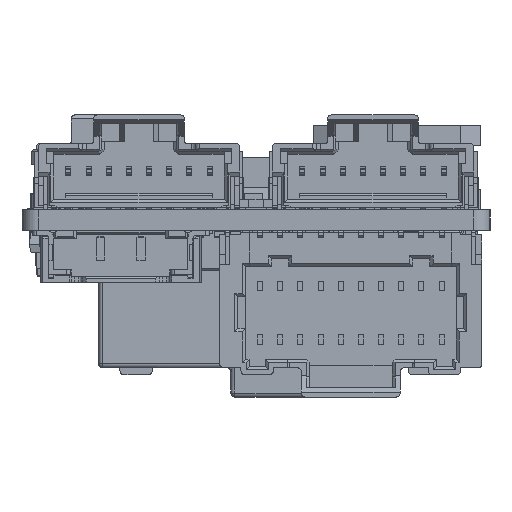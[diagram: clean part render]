
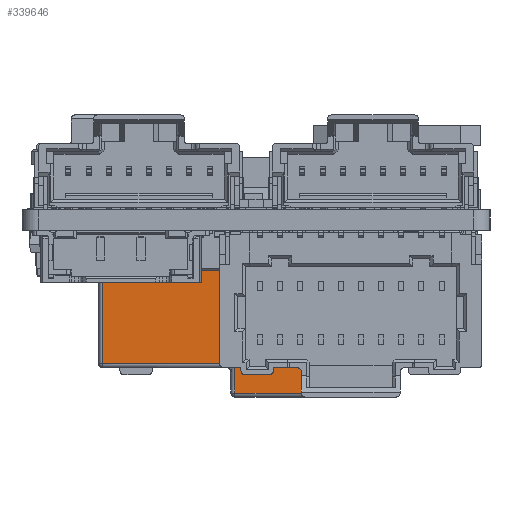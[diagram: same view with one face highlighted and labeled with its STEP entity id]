
A CAD part, left-side view. The second image highlights one B-rep face of the part: STEP entity #339646.
In plain terms, the highlighted planar face has unit normal (-1, 0, 0).
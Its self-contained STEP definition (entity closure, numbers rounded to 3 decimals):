
#339530 = VERTEX_POINT('',#339531);
#339531 = CARTESIAN_POINT('',(34.35,1.05,
    -7.635));
#339627 = VERTEX_POINT('',#339628);
#339628 = CARTESIAN_POINT('',(34.35,1.05,
    -9.085));
#339635 = EDGE_CURVE('',#339627,#339530,#339636,.T.);
#339636 = LINE('',#339637,#339638);
#339637 = CARTESIAN_POINT('',(34.35,1.05,
    -9.085));
#339638 = VECTOR('',#339639,1.);
#339639 = DIRECTION('',(0.,0.,1.));
#339646 = ADVANCED_FACE('',(#339647),#339704,.T.);
#339647 = FACE_BOUND('',#339648,.F.);
#339648 = EDGE_LOOP('',(#339649,#339657,#339665,#339673,#339681,#339689,
    #339697,#339703));
#339649 = ORIENTED_EDGE('',*,*,#339650,.T.);
#339650 = EDGE_CURVE('',#339530,#339651,#339653,.T.);
#339651 = VERTEX_POINT('',#339652);
#339652 = CARTESIAN_POINT('',(34.35,7.6,
    -7.635));
#339653 = LINE('',#339654,#339655);
#339654 = CARTESIAN_POINT('',(34.35,1.05,
    -7.635));
#339655 = VECTOR('',#339656,1.);
#339656 = DIRECTION('',(0.,1.,0.));
#339657 = ORIENTED_EDGE('',*,*,#339658,.T.);
#339658 = EDGE_CURVE('',#339651,#339659,#339661,.T.);
#339659 = VERTEX_POINT('',#339660);
#339660 = CARTESIAN_POINT('',(34.35,7.6,
    -1.465));
#339661 = LINE('',#339662,#339663);
#339662 = CARTESIAN_POINT('',(34.35,7.6,
    -7.635));
#339663 = VECTOR('',#339664,1.);
#339664 = DIRECTION('',(0.,0.,1.));
#339665 = ORIENTED_EDGE('',*,*,#339666,.T.);
#339666 = EDGE_CURVE('',#339659,#339667,#339669,.T.);
#339667 = VERTEX_POINT('',#339668);
#339668 = CARTESIAN_POINT('',(34.35,-10.,
    -1.465));
#339669 = LINE('',#339670,#339671);
#339670 = CARTESIAN_POINT('',(34.35,7.6,
    -1.465));
#339671 = VECTOR('',#339672,1.);
#339672 = DIRECTION('',(0.,-1.,0.));
#339673 = ORIENTED_EDGE('',*,*,#339674,.T.);
#339674 = EDGE_CURVE('',#339667,#339675,#339677,.T.);
#339675 = VERTEX_POINT('',#339676);
#339676 = CARTESIAN_POINT('',(34.35,-10.,
    -7.635));
#339677 = LINE('',#339678,#339679);
#339678 = CARTESIAN_POINT('',(34.35,-10.,
    -1.465));
#339679 = VECTOR('',#339680,1.);
#339680 = DIRECTION('',(0.,0.,-1.));
#339681 = ORIENTED_EDGE('',*,*,#339682,.T.);
#339682 = EDGE_CURVE('',#339675,#339683,#339685,.T.);
#339683 = VERTEX_POINT('',#339684);
#339684 = CARTESIAN_POINT('',(34.35,-3.45,
    -7.635));
#339685 = LINE('',#339686,#339687);
#339686 = CARTESIAN_POINT('',(34.35,-10.,
    -7.635));
#339687 = VECTOR('',#339688,1.);
#339688 = DIRECTION('',(0.,1.,0.));
#339689 = ORIENTED_EDGE('',*,*,#339690,.T.);
#339690 = EDGE_CURVE('',#339683,#339691,#339693,.T.);
#339691 = VERTEX_POINT('',#339692);
#339692 = CARTESIAN_POINT('',(34.35,-3.45,
    -9.085));
#339693 = LINE('',#339694,#339695);
#339694 = CARTESIAN_POINT('',(34.35,-3.45,
    -7.635));
#339695 = VECTOR('',#339696,1.);
#339696 = DIRECTION('',(0.,0.,-1.));
#339697 = ORIENTED_EDGE('',*,*,#339698,.T.);
#339698 = EDGE_CURVE('',#339691,#339627,#339699,.T.);
#339699 = LINE('',#339700,#339701);
#339700 = CARTESIAN_POINT('',(34.35,-3.45,
    -9.085));
#339701 = VECTOR('',#339702,1.);
#339702 = DIRECTION('',(0.,1.,0.));
#339703 = ORIENTED_EDGE('',*,*,#339635,.T.);
#339704 = PLANE('',#339705);
#339705 = AXIS2_PLACEMENT_3D('',#339706,#339707,#339708);
#339706 = CARTESIAN_POINT('',(34.35,7.8,
    -1.135));
#339707 = DIRECTION('',(-1.,0.,0.));
#339708 = DIRECTION('',(0.,0.,-1.));
